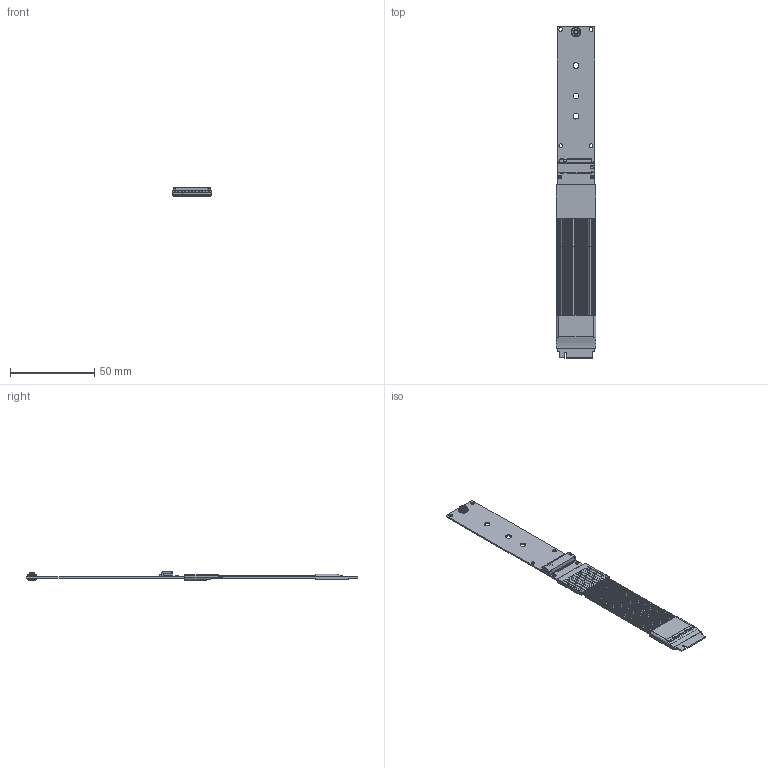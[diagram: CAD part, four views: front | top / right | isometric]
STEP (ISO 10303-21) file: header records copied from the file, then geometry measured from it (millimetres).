
FILE_DESCRIPTION(('Open CASCADE Model'),'2;1');
FILE_NAME('Open CASCADE Shape Model','2023-03-11T12:13:21',('Author'),( 'Open CASCADE'),'Open CASCADE STEP processor 7.5','Open CASCADE 7.5' ,'Unknown');
FILE_SCHEMA(('AUTOMOTIVE_DESIGN { 1 0 10303 214 1 1 1 1 }'));
Length unit declared in the file: millimetre
Products named in the file (25): PCB; Board; Open CASCADE STEP translator 7.5 1.1.1; Designator59; C0603_060; CN1; c-1-2199119-3-a1-3d.stp; Designator58; Designator57; LED AP1608; Designator46; 0603_RES; Capsule; Encapsulation; TopCover; Free-Models; 5.0 20 PIN SI 20221101; 5.0 24 PIN SI R4 20221101; R4S HST 20220711; G0030_RGB12967653; G0042; M2 nuc_RGB3326705
Assembly tree (31 placements, depth 4):
  PCB
    Board
      Open CASCADE STEP translator 7.5 1.1.1
    Designator59
      C0603_060
      C0603_060
      C0603_060
    CN1
      c-1-2199119-3-a1-3d.stp  x2
      c-1-2199119-3-a1-3d.stp
    Designator58
      C0603_060
      C0603_060
      C0603_060
    Designator57
      LED AP1608
    Designator46
      0603_RES
        Capsule
        Encapsulation  x2
        TopCover
    Free-Models
      5.0 20 PIN SI 20221101
      5.0 24 PIN SI R4 20221101
      R4S HST 20220711  x2
      G0030_RGB12967653
      G0042  x2
      M2 nuc_RGB3326705
Bounding box: 23.6 x 197.05 x 4.99 mm (x, y, z)
Volume: 5297.3 mm3; surface area: 36025 mm2
Topology: 251 solids, 251 shells, 8214 faces, 21653 edges, 14136 vertices
Faces by surface type: plane 4946, cylinder 2685, torus 358, bspline 192, cone 17, sphere 16
Full cylindrical faces by diameter (mm): 0.9 x2, 1.1 x1, 1.6 x1, 2 x1, 2.2 x4, 3.2 x3, 3.3 x3, 3.4 x5, 4.1 x1, 5 x1, 5.76 x2
Entity records: 257479 total; most frequent: CARTESIAN_POINT 43462, DIRECTION 34259, ORIENTED_EDGE 33818, EDGE_CURVE 16909, LINE 11457, VECTOR 11457, AXIS2_PLACEMENT_3D 11401, VERTEX_POINT 10999
